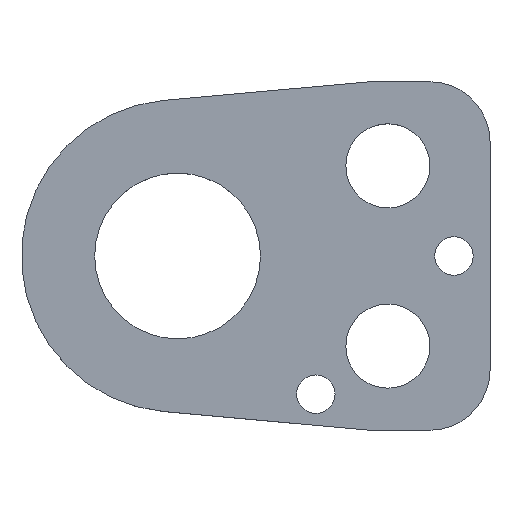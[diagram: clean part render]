
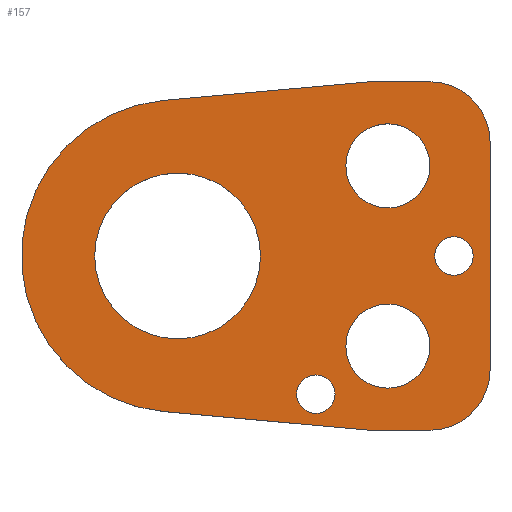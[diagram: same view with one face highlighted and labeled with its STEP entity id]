
A CAD part, top view. The second image highlights one B-rep face of the part: STEP entity #157.
In plain terms, the highlighted planar face has unit normal (0, 0, 1).
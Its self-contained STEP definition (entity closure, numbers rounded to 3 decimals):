
#103=FACE_BOUND('',#207,.T.);
#104=FACE_BOUND('',#208,.T.);
#105=FACE_BOUND('',#209,.T.);
#106=FACE_BOUND('',#210,.T.);
#107=FACE_BOUND('',#211,.T.);
#108=FACE_BOUND('',#212,.T.);
#122=CIRCLE('',#480,10.);
#124=CIRCLE('',#484,10.);
#127=CIRCLE('',#490,26.);
#138=CIRCLE('',#503,3.2);
#139=CIRCLE('',#504,3.2);
#140=CIRCLE('',#505,7.);
#141=CIRCLE('',#506,7.);
#142=CIRCLE('',#507,7.);
#143=CIRCLE('',#508,7.);
#144=CIRCLE('',#509,3.2);
#145=CIRCLE('',#510,3.2);
#146=CIRCLE('',#511,13.8);
#147=CIRCLE('',#512,13.8);
#157=ADVANCED_FACE('',(#103,#104,#105,#106,#107,#108),#174,.T.);
#174=PLANE('',#513);
#207=EDGE_LOOP('',(#273,#274,#275,#276,#277,#278,#279,#280));
#208=EDGE_LOOP('',(#281,#282));
#209=EDGE_LOOP('',(#283,#284));
#210=EDGE_LOOP('',(#285,#286));
#211=EDGE_LOOP('',(#287,#288));
#212=EDGE_LOOP('',(#289,#290));
#273=ORIENTED_EDGE('',*,*,#368,.T.);
#274=ORIENTED_EDGE('',*,*,#372,.T.);
#275=ORIENTED_EDGE('',*,*,#375,.T.);
#276=ORIENTED_EDGE('',*,*,#378,.T.);
#277=ORIENTED_EDGE('',*,*,#381,.T.);
#278=ORIENTED_EDGE('',*,*,#384,.T.);
#279=ORIENTED_EDGE('',*,*,#387,.T.);
#280=ORIENTED_EDGE('',*,*,#390,.T.);
#281=ORIENTED_EDGE('',*,*,#401,.T.);
#282=ORIENTED_EDGE('',*,*,#402,.T.);
#283=ORIENTED_EDGE('',*,*,#403,.T.);
#284=ORIENTED_EDGE('',*,*,#404,.T.);
#285=ORIENTED_EDGE('',*,*,#405,.T.);
#286=ORIENTED_EDGE('',*,*,#406,.T.);
#287=ORIENTED_EDGE('',*,*,#407,.T.);
#288=ORIENTED_EDGE('',*,*,#408,.T.);
#289=ORIENTED_EDGE('',*,*,#409,.T.);
#290=ORIENTED_EDGE('',*,*,#410,.T.);
#332=VERTEX_POINT('',#649);
#333=VERTEX_POINT('',#651);
#336=VERTEX_POINT('',#658);
#338=VERTEX_POINT('',#664);
#340=VERTEX_POINT('',#670);
#342=VERTEX_POINT('',#676);
#344=VERTEX_POINT('',#682);
#346=VERTEX_POINT('',#688);
#357=VERTEX_POINT('',#717);
#358=VERTEX_POINT('',#718);
#359=VERTEX_POINT('',#721);
#360=VERTEX_POINT('',#722);
#361=VERTEX_POINT('',#725);
#362=VERTEX_POINT('',#726);
#363=VERTEX_POINT('',#729);
#364=VERTEX_POINT('',#730);
#365=VERTEX_POINT('',#733);
#366=VERTEX_POINT('',#734);
#368=EDGE_CURVE('',#333,#332,#422,.T.);
#372=EDGE_CURVE('',#332,#336,#426,.T.);
#375=EDGE_CURVE('',#336,#338,#122,.T.);
#378=EDGE_CURVE('',#338,#340,#430,.T.);
#381=EDGE_CURVE('',#340,#342,#124,.T.);
#384=EDGE_CURVE('',#342,#344,#434,.T.);
#387=EDGE_CURVE('',#344,#346,#437,.T.);
#390=EDGE_CURVE('',#346,#333,#127,.T.);
#401=EDGE_CURVE('',#357,#358,#138,.T.);
#402=EDGE_CURVE('',#358,#357,#139,.T.);
#403=EDGE_CURVE('',#359,#360,#140,.T.);
#404=EDGE_CURVE('',#360,#359,#141,.T.);
#405=EDGE_CURVE('',#361,#362,#142,.T.);
#406=EDGE_CURVE('',#362,#361,#143,.T.);
#407=EDGE_CURVE('',#363,#364,#144,.T.);
#408=EDGE_CURVE('',#364,#363,#145,.T.);
#409=EDGE_CURVE('',#365,#366,#146,.T.);
#410=EDGE_CURVE('',#366,#365,#147,.T.);
#422=LINE('',#650,#450);
#426=LINE('',#659,#454);
#430=LINE('',#671,#458);
#434=LINE('',#683,#462);
#437=LINE('',#689,#465);
#450=VECTOR('',#527,1.);
#454=VECTOR('',#533,1.);
#458=VECTOR('',#545,1.);
#462=VECTOR('',#557,1.);
#465=VECTOR('',#562,1.);
#480=AXIS2_PLACEMENT_3D('',#665,#538,#539);
#484=AXIS2_PLACEMENT_3D('',#677,#550,#551);
#490=AXIS2_PLACEMENT_3D('',#693,#568,#569);
#503=AXIS2_PLACEMENT_3D('',#716,#594,#595);
#504=AXIS2_PLACEMENT_3D('',#719,#596,#597);
#505=AXIS2_PLACEMENT_3D('',#720,#598,#599);
#506=AXIS2_PLACEMENT_3D('',#723,#600,#601);
#507=AXIS2_PLACEMENT_3D('',#724,#602,#603);
#508=AXIS2_PLACEMENT_3D('',#727,#604,#605);
#509=AXIS2_PLACEMENT_3D('',#728,#606,#607);
#510=AXIS2_PLACEMENT_3D('',#731,#608,#609);
#511=AXIS2_PLACEMENT_3D('',#732,#610,#611);
#512=AXIS2_PLACEMENT_3D('',#735,#612,#613);
#513=AXIS2_PLACEMENT_3D('',#736,#614,#615);
#527=DIRECTION('',(0.996,-0.09,0.));
#533=DIRECTION('',(1.,0.,0.));
#538=DIRECTION('',(0.,0.,1.));
#539=DIRECTION('',(-0.707,0.707,0.));
#545=DIRECTION('',(0.,1.,0.));
#550=DIRECTION('',(0.,0.,1.));
#551=DIRECTION('',(-0.707,-0.707,0.));
#557=DIRECTION('',(-1.,0.,0.));
#562=DIRECTION('',(-0.996,-0.09,0.));
#568=DIRECTION('',(0.,0.,1.));
#569=DIRECTION('',(1.,0.,0.));
#594=DIRECTION('',(0.,0.,-1.));
#595=DIRECTION('',(-1.,0.,0.));
#596=DIRECTION('',(0.,0.,-1.));
#597=DIRECTION('',(1.,0.,0.));
#598=DIRECTION('',(0.,0.,-1.));
#599=DIRECTION('',(-1.,0.,0.));
#600=DIRECTION('',(0.,0.,-1.));
#601=DIRECTION('',(1.,0.,0.));
#602=DIRECTION('',(0.,0.,-1.));
#603=DIRECTION('',(-1.,0.,0.));
#604=DIRECTION('',(0.,0.,-1.));
#605=DIRECTION('',(1.,0.,0.));
#606=DIRECTION('',(0.,0.,-1.));
#607=DIRECTION('',(-1.,0.,0.));
#608=DIRECTION('',(0.,0.,-1.));
#609=DIRECTION('',(1.,0.,0.));
#610=DIRECTION('',(0.,0.,-1.));
#611=DIRECTION('',(-1.,0.,0.));
#612=DIRECTION('',(0.,0.,-1.));
#613=DIRECTION('',(1.,0.,0.));
#614=DIRECTION('',(0.,0.,1.));
#615=DIRECTION('',(0.996,-0.09,0.));
#649=CARTESIAN_POINT('',(32.,-29.,5.));
#650=CARTESIAN_POINT('',(32.,-29.,5.));
#651=CARTESIAN_POINT('',(-2.342,-25.894,5.));
#658=CARTESIAN_POINT('',(42.,-29.,5.));
#659=CARTESIAN_POINT('',(32.,-29.,5.));
#664=CARTESIAN_POINT('',(52.,-19.,5.));
#665=CARTESIAN_POINT('',(42.,-19.,5.));
#670=CARTESIAN_POINT('',(52.,19.,5.));
#671=CARTESIAN_POINT('',(52.,19.,5.));
#676=CARTESIAN_POINT('',(42.,29.,5.));
#677=CARTESIAN_POINT('',(42.,19.,5.));
#682=CARTESIAN_POINT('',(32.,29.,5.));
#683=CARTESIAN_POINT('',(32.,29.,5.));
#688=CARTESIAN_POINT('',(-2.342,25.894,5.));
#689=CARTESIAN_POINT('',(32.,29.,5.));
#693=CARTESIAN_POINT('',(0.,0.,5.));
#716=CARTESIAN_POINT('',(46.,0.,5.));
#717=CARTESIAN_POINT('',(46.,3.2,5.));
#718=CARTESIAN_POINT('',(46.,-3.2,5.));
#719=CARTESIAN_POINT('',(46.,0.,5.));
#720=CARTESIAN_POINT('',(35.,15.,5.));
#721=CARTESIAN_POINT('',(35.,22.,5.));
#722=CARTESIAN_POINT('',(35.,8.,5.));
#723=CARTESIAN_POINT('',(35.,15.,5.));
#724=CARTESIAN_POINT('',(35.,-15.,5.));
#725=CARTESIAN_POINT('',(35.,-8.,5.));
#726=CARTESIAN_POINT('',(35.,-22.,5.));
#727=CARTESIAN_POINT('',(35.,-15.,5.));
#728=CARTESIAN_POINT('',(23.,-23.,5.));
#729=CARTESIAN_POINT('',(23.,-19.8,5.));
#730=CARTESIAN_POINT('',(23.,-26.2,5.));
#731=CARTESIAN_POINT('',(23.,-23.,5.));
#732=CARTESIAN_POINT('',(0.,0.,5.));
#733=CARTESIAN_POINT('',(0.,13.8,5.));
#734=CARTESIAN_POINT('',(0.,-13.8,5.));
#735=CARTESIAN_POINT('',(0.,0.,5.));
#736=CARTESIAN_POINT('',(-2.342,-25.894,5.));
